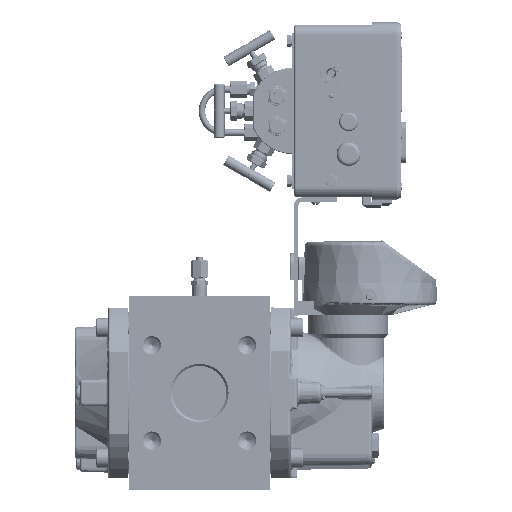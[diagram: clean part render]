
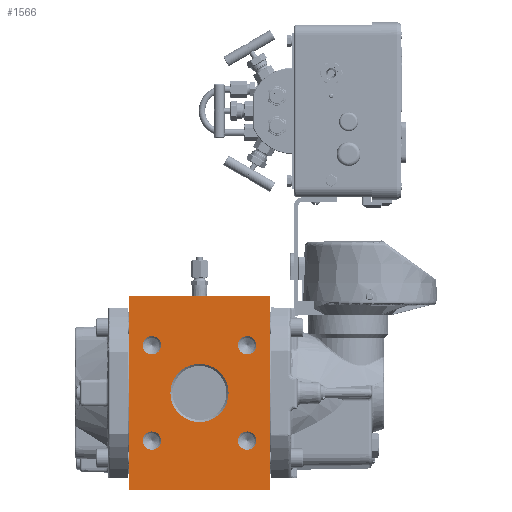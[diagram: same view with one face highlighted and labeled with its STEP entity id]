
A CAD part, left-side view. The second image highlights one B-rep face of the part: STEP entity #1566.
In plain terms, the highlighted planar face has unit normal (-1, 0, 0).
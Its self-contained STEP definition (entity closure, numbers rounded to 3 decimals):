
#1566=ADVANCED_FACE('',(#25336,#25338,#25340,#25342,#25344,#25346),#25348,.T.);
#25336=FACE_BOUND('',#25337,.T.);
#25337=EDGE_LOOP('',(#74446,#74447,#74448,#74449));
#25338=FACE_BOUND('',#25339,.T.);
#25339=EDGE_LOOP('',(#74450));
#25340=FACE_BOUND('',#25341,.T.);
#25341=EDGE_LOOP('',(#74451));
#25342=FACE_BOUND('',#25343,.T.);
#25343=EDGE_LOOP('',(#74452));
#25344=FACE_BOUND('',#25345,.T.);
#25345=EDGE_LOOP('',(#74453));
#25346=FACE_BOUND('',#25347,.T.);
#25347=EDGE_LOOP('',(#74454));
#25348=PLANE('',#25349);
#25349=AXIS2_PLACEMENT_3D('',#25350,#25351,#25352);
#25350=CARTESIAN_POINT('',(-85.5,0.,0.));
#25351=DIRECTION('',(-1.,0.,0.));
#25352=DIRECTION('',(0.,1.,0.));
#74446=ORIENTED_EDGE('',*,*,#110951,.F.);
#74447=ORIENTED_EDGE('',*,*,#110995,.F.);
#74448=ORIENTED_EDGE('',*,*,#110909,.F.);
#74449=ORIENTED_EDGE('',*,*,#110996,.F.);
#74450=ORIENTED_EDGE('',*,*,#110997,.T.);
#74451=ORIENTED_EDGE('',*,*,#110998,.T.);
#74452=ORIENTED_EDGE('',*,*,#110999,.T.);
#74453=ORIENTED_EDGE('',*,*,#111000,.T.);
#74454=ORIENTED_EDGE('',*,*,#111001,.F.);
#110909=EDGE_CURVE('',#131693,#131694,#131695,.T.);
#110951=EDGE_CURVE('',#131775,#131776,#131777,.F.);
#110995=EDGE_CURVE('',#131694,#131775,#131861,.F.);
#110996=EDGE_CURVE('',#131776,#131693,#131862,.T.);
#110997=EDGE_CURVE('',#131863,#131863,#131864,.F.);
#110998=EDGE_CURVE('',#131865,#131865,#131866,.F.);
#110999=EDGE_CURVE('',#131867,#131867,#131868,.F.);
#111000=EDGE_CURVE('',#131869,#131869,#131870,.F.);
#111001=EDGE_CURVE('',#131871,#131871,#131872,.T.);
#131693=VERTEX_POINT('',#153803);
#131694=VERTEX_POINT('',#153804);
#131695=LINE('',#153805,#153806);
#131775=VERTEX_POINT('',#153995);
#131776=VERTEX_POINT('',#153996);
#131777=LINE('',#153997,#153998);
#131861=LINE('',#154197,#154198);
#131862=LINE('',#154200,#154201);
#131863=VERTEX_POINT('',#154203);
#131864=CIRCLE('',#154204,8.5);
#131865=VERTEX_POINT('',#154208);
#131866=CIRCLE('',#154209,8.5);
#131867=VERTEX_POINT('',#154213);
#131868=CIRCLE('',#154214,8.5);
#131869=VERTEX_POINT('',#154218);
#131870=CIRCLE('',#154219,8.5);
#131871=VERTEX_POINT('',#154223);
#131872=CIRCLE('',#154224,27.);
#153803=CARTESIAN_POINT('',(-85.5,0.,89.732));
#153804=CARTESIAN_POINT('',(-85.5,0.,-89.732));
#153805=CARTESIAN_POINT('',(-85.5,0.,89.732));
#153806=VECTOR('',#153807,1.);
#153807=DIRECTION('',(0.,0.,-1.));
#153995=CARTESIAN_POINT('',(-85.5,131.4,-89.732));
#153996=CARTESIAN_POINT('',(-85.5,131.4,89.732));
#153997=CARTESIAN_POINT('',(-85.5,131.4,89.732));
#153998=VECTOR('',#153999,1.);
#153999=DIRECTION('',(0.,0.,-1.));
#154197=CARTESIAN_POINT('',(-85.5,131.4,-89.732));
#154198=VECTOR('',#154199,1.);
#154199=DIRECTION('',(0.,-1.,0.));
#154200=CARTESIAN_POINT('',(-85.5,131.4,89.732));
#154201=VECTOR('',#154202,1.);
#154202=DIRECTION('',(0.,-1.,0.));
#154203=CARTESIAN_POINT('',(-85.5,101.4,-44.2));
#154204=AXIS2_PLACEMENT_3D('',#154205,#154206,#154207);
#154205=CARTESIAN_POINT('',(-85.5,109.9,-44.2));
#154206=DIRECTION('',(-1.,0.,0.));
#154207=DIRECTION('',(0.,-1.,0.));
#154208=CARTESIAN_POINT('',(-85.5,30.,44.2));
#154209=AXIS2_PLACEMENT_3D('',#154210,#154211,#154212);
#154210=CARTESIAN_POINT('',(-85.5,21.5,44.2));
#154211=DIRECTION('',(-1.,0.,0.));
#154212=DIRECTION('',(0.,1.,0.));
#154213=CARTESIAN_POINT('',(-85.5,21.5,-35.7));
#154214=AXIS2_PLACEMENT_3D('',#154215,#154216,#154217);
#154215=CARTESIAN_POINT('',(-85.5,21.5,-44.2));
#154216=DIRECTION('',(-1.,0.,0.));
#154217=DIRECTION('',(0.,0.,1.));
#154218=CARTESIAN_POINT('',(-85.5,109.9,35.7));
#154219=AXIS2_PLACEMENT_3D('',#154220,#154221,#154222);
#154220=CARTESIAN_POINT('',(-85.5,109.9,44.2));
#154221=DIRECTION('',(-1.,0.,0.));
#154222=DIRECTION('',(0.,0.,-1.));
#154223=CARTESIAN_POINT('',(-85.5,92.7,0.));
#154224=AXIS2_PLACEMENT_3D('',#154225,#154226,#154227);
#154225=CARTESIAN_POINT('',(-85.5,65.7,0.));
#154226=DIRECTION('',(-1.,0.,0.));
#154227=DIRECTION('',(0.,1.,0.));
